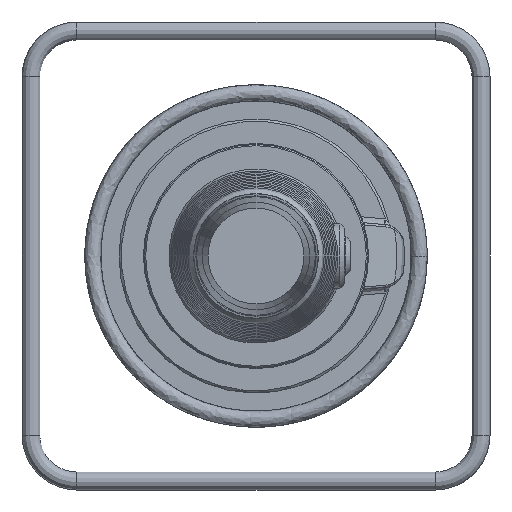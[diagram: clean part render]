
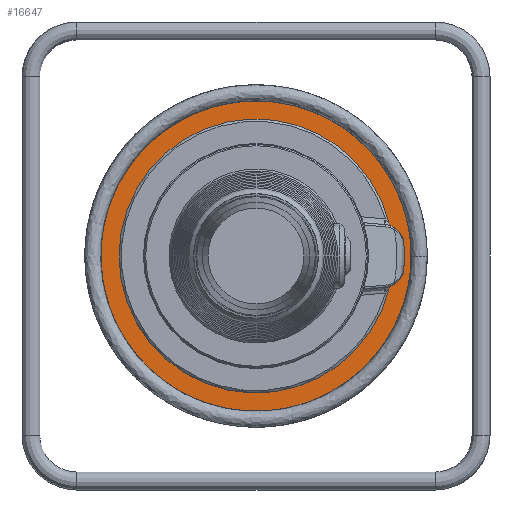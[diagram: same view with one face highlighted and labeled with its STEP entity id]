
A CAD part, left-side view. The second image highlights one B-rep face of the part: STEP entity #16647.
In plain terms, the highlighted planar face has unit normal (-1, 0, 0).
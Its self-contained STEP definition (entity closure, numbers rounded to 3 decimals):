
#2622=PLANE('',#17573);
#3757=FACE_BOUND('',#5768,.T.);
#4647=FACE_OUTER_BOUND('',#5767,.T.);
#5767=EDGE_LOOP('',(#14605));
#5768=EDGE_LOOP('',(#14606,#14607,#14608,#14609,#14610,#14611,#14612,#14613));
#6446=CIRCLE('',#17550,136.5);
#6448=CIRCLE('',#17574,2.);
#6449=CIRCLE('',#17575,19.);
#6450=CIRCLE('',#17576,5.);
#6451=CIRCLE('',#17577,120.);
#6452=CIRCLE('',#17578,5.);
#6453=CIRCLE('',#17579,19.);
#6454=CIRCLE('',#17580,2.);
#6455=CIRCLE('',#17581,130.);
#8026=VERTEX_POINT('',#40812);
#8028=VERTEX_POINT('',#40838);
#8029=VERTEX_POINT('',#40839);
#8030=VERTEX_POINT('',#40841);
#8031=VERTEX_POINT('',#40843);
#8032=VERTEX_POINT('',#40845);
#8033=VERTEX_POINT('',#40847);
#8034=VERTEX_POINT('',#40849);
#8035=VERTEX_POINT('',#40851);
#10275=EDGE_CURVE('',#8026,#8026,#6446,.T.);
#10277=EDGE_CURVE('',#8028,#8029,#6448,.T.);
#10278=EDGE_CURVE('',#8030,#8028,#6449,.T.);
#10279=EDGE_CURVE('',#8031,#8030,#6450,.T.);
#10280=EDGE_CURVE('',#8032,#8031,#6451,.T.);
#10281=EDGE_CURVE('',#8033,#8032,#6452,.T.);
#10282=EDGE_CURVE('',#8034,#8033,#6453,.T.);
#10283=EDGE_CURVE('',#8035,#8034,#6454,.T.);
#10284=EDGE_CURVE('',#8035,#8029,#6455,.T.);
#14605=ORIENTED_EDGE('',*,*,#10275,.T.);
#14606=ORIENTED_EDGE('',*,*,#10277,.F.);
#14607=ORIENTED_EDGE('',*,*,#10278,.F.);
#14608=ORIENTED_EDGE('',*,*,#10279,.F.);
#14609=ORIENTED_EDGE('',*,*,#10280,.F.);
#14610=ORIENTED_EDGE('',*,*,#10281,.F.);
#14611=ORIENTED_EDGE('',*,*,#10282,.F.);
#14612=ORIENTED_EDGE('',*,*,#10283,.F.);
#14613=ORIENTED_EDGE('',*,*,#10284,.T.);
#16647=ADVANCED_FACE('',(#4647,#3757),#2622,.T.);
#17550=AXIS2_PLACEMENT_3D('',#40813,#20216,#20217);
#17573=AXIS2_PLACEMENT_3D('',#40837,#20262,#20263);
#17574=AXIS2_PLACEMENT_3D('',#40840,#20264,#20265);
#17575=AXIS2_PLACEMENT_3D('',#40842,#20266,#20267);
#17576=AXIS2_PLACEMENT_3D('',#40844,#20268,#20269);
#17577=AXIS2_PLACEMENT_3D('',#40846,#20270,#20271);
#17578=AXIS2_PLACEMENT_3D('',#40848,#20272,#20273);
#17579=AXIS2_PLACEMENT_3D('',#40850,#20274,#20275);
#17580=AXIS2_PLACEMENT_3D('',#40852,#20276,#20277);
#17581=AXIS2_PLACEMENT_3D('',#40853,#20278,#20279);
#20216=DIRECTION('center_axis',(-1.,0.,0.));
#20217=DIRECTION('ref_axis',(0.,-0.207,0.978));
#20262=DIRECTION('center_axis',(-1.,0.,0.));
#20263=DIRECTION('ref_axis',(0.,0.207,-0.978));
#20264=DIRECTION('center_axis',(-1.,0.,0.));
#20265=DIRECTION('ref_axis',(0.,-0.981,-0.196));
#20266=DIRECTION('center_axis',(-1.,0.,0.));
#20267=DIRECTION('ref_axis',(0.,-0.737,-0.676));
#20268=DIRECTION('center_axis',(1.,0.,0.));
#20269=DIRECTION('ref_axis',(0.,0.773,0.634));
#20270=DIRECTION('center_axis',(-1.,0.,0.));
#20271=DIRECTION('ref_axis',(0.,1.,0.));
#20272=DIRECTION('center_axis',(1.,0.,0.));
#20273=DIRECTION('ref_axis',(0.,0.773,-0.634));
#20274=DIRECTION('center_axis',(-1.,0.,0.));
#20275=DIRECTION('ref_axis',(0.,-0.737,0.676));
#20276=DIRECTION('center_axis',(-1.,0.,0.));
#20277=DIRECTION('ref_axis',(0.,-0.981,0.196));
#20278=DIRECTION('center_axis',(1.,0.,0.));
#20279=DIRECTION('ref_axis',(0.,-1.,0.));
#40812=CARTESIAN_POINT('',(-4.471,-60.826,-28.306));
#40813=CARTESIAN_POINT('Origin',(-4.471,72.707,0.));
#40837=CARTESIAN_POINT('Origin',(-4.471,50.207,-4.769));
#40838=CARTESIAN_POINT('',(-4.471,-56.501,-14.016));
#40839=CARTESIAN_POINT('',(-4.471,-56.574,-13.655));
#40840=CARTESIAN_POINT('Origin',(-4.471,-54.585,-13.445));
#40841=CARTESIAN_POINT('',(-4.471,-46.429,-25.759));
#40842=CARTESIAN_POINT('Origin',(-4.471,-38.293,-8.59));
#40843=CARTESIAN_POINT('',(-4.471,-43.719,-29.067));
#40844=CARTESIAN_POINT('Origin',(-4.471,-48.57,-30.278));
#40845=CARTESIAN_POINT('',(-4.471,-43.719,29.067));
#40846=CARTESIAN_POINT('Origin',(-4.471,72.707,0.));
#40847=CARTESIAN_POINT('',(-4.471,-46.429,25.759));
#40848=CARTESIAN_POINT('Origin',(-4.471,-48.57,30.278));
#40849=CARTESIAN_POINT('',(-4.471,-56.501,14.016));
#40850=CARTESIAN_POINT('Origin',(-4.471,-38.293,8.59));
#40851=CARTESIAN_POINT('',(-4.471,-56.574,13.655));
#40852=CARTESIAN_POINT('Origin',(-4.471,-54.585,13.445));
#40853=CARTESIAN_POINT('Origin',(-4.471,72.707,0.));
